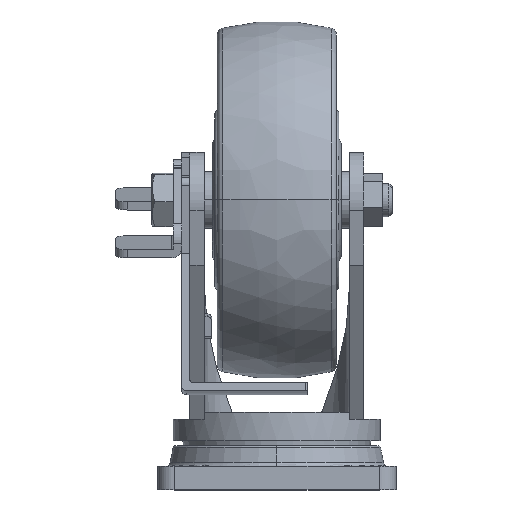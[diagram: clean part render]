
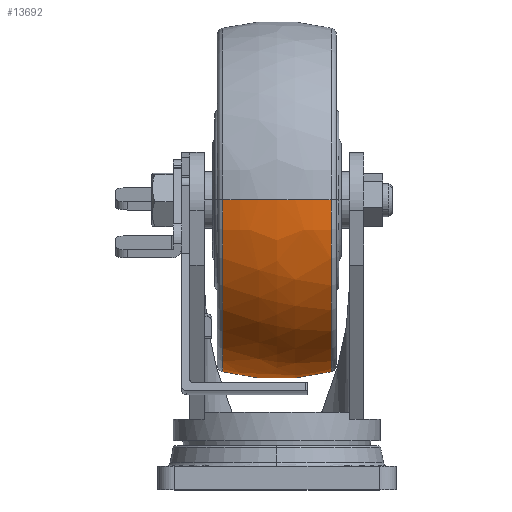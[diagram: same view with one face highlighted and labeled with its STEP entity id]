
A CAD part, top view. The second image highlights one B-rep face of the part: STEP entity #13692.
In plain terms, the highlighted free-form (B-spline) face has degree [3, 3] with [7, 4] control points.
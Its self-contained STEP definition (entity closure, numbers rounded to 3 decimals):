
#9576=CARTESIAN_POINT('',(14.999,0.,
0.));
#9577=DIRECTION('',(0.,1.,0.));
#9578=DIRECTION('',(-1.,0.,0.));
#9579=AXIS2_PLACEMENT_3D('',#9576,#9577,#9578);
#9581=CARTESIAN_POINT('',(0.,0.,22.759));
#9582=DIRECTION('',(0.,0.,1.));
#9583=DIRECTION('',(-1.,0.,0.));
#9584=AXIS2_PLACEMENT_3D('',#9581,#9582,#9583);
#9586=CARTESIAN_POINT('',(0.,0.,-22.759));
#9587=DIRECTION('',(0.,0.,-1.));
#9588=DIRECTION('',(1.,0.,0.));
#9589=AXIS2_PLACEMENT_3D('',#9586,#9587,#9588);
#9591=CARTESIAN_POINT('',(14.999,0.,
0.));
#9592=DIRECTION('',(0.,1.,0.));
#9593=DIRECTION('',(-0.967,0.,-0.253));
#9594=AXIS2_PLACEMENT_3D('',#9591,#9592,#9593);
#9601=CARTESIAN_POINT('',(-14.999,0.,
0.));
#9602=DIRECTION('',(0.,-1.,0.));
#9603=DIRECTION('',(0.967,0.,-0.253));
#9604=AXIS2_PLACEMENT_3D('',#9601,#9602,#9603);
#9606=CARTESIAN_POINT('',(-14.999,0.,
0.));
#9607=DIRECTION('',(0.,-1.,0.));
#9608=DIRECTION('',(1.,0.,0.));
#9609=AXIS2_PLACEMENT_3D('',#9606,#9607,#9608);
#10938=CARTESIAN_POINT('',(72.076,0.,
-22.759));
#10939=VERTEX_POINT('',#10938);
#10940=CARTESIAN_POINT('',(-72.076,0.001,
-22.759));
#10941=VERTEX_POINT('',#10940);
#10942=CARTESIAN_POINT('',(-75.001,-0.001,
0.));
#10943=CARTESIAN_POINT('',(-72.076,-0.001,
22.759));
#10944=VERTEX_POINT('',#10942);
#10945=VERTEX_POINT('',#10943);
#10946=CARTESIAN_POINT('',(72.076,-0.001,
22.759));
#10947=VERTEX_POINT('',#10946);
#10948=CARTESIAN_POINT('',(75.001,0.001,
0.));
#10949=VERTEX_POINT('',#10948);
#13650=CARTESIAN_POINT('',(-71.697,4.51,
-23.648));
#13651=CARTESIAN_POINT('',(-75.931,4.776,
-8.072));
#13652=CARTESIAN_POINT('',(-75.931,4.776,
8.072));
#13653=CARTESIAN_POINT('',(-71.697,4.51,
23.648));
#13654=CARTESIAN_POINT('',(-74.473,-39.612,
-23.648));
#13655=CARTESIAN_POINT('',(-78.87,-41.951,
-8.072));
#13656=CARTESIAN_POINT('',(-78.87,-41.951,
8.072));
#13657=CARTESIAN_POINT('',(-74.473,-39.612,
23.648));
#13658=CARTESIAN_POINT('',(-44.209,-71.839,
-23.648));
#13659=CARTESIAN_POINT('',(-46.82,-76.081,
-8.072));
#13660=CARTESIAN_POINT('',(-46.82,-76.081,
8.072));
#13661=CARTESIAN_POINT('',(-44.209,-71.839,
23.648));
#13662=CARTESIAN_POINT('',(0.,-71.839,
-23.648));
#13663=CARTESIAN_POINT('',(0.,-76.081,
-8.072));
#13664=CARTESIAN_POINT('',(0.,-76.081,
8.072));
#13665=CARTESIAN_POINT('',(0.,-71.839,
23.648));
#13666=CARTESIAN_POINT('',(44.209,-71.839,
-23.648));
#13667=CARTESIAN_POINT('',(46.82,-76.081,
-8.072));
#13668=CARTESIAN_POINT('',(46.82,-76.081,
8.072));
#13669=CARTESIAN_POINT('',(44.209,-71.839,
23.648));
#13670=CARTESIAN_POINT('',(74.473,-39.612,
-23.648));
#13671=CARTESIAN_POINT('',(78.87,-41.951,
-8.072));
#13672=CARTESIAN_POINT('',(78.87,-41.951,
8.072));
#13673=CARTESIAN_POINT('',(74.473,-39.612,
23.648));
#13674=CARTESIAN_POINT('',(71.697,4.51,
-23.648));
#13675=CARTESIAN_POINT('',(75.931,4.776,
-8.072));
#13676=CARTESIAN_POINT('',(75.931,4.776,8.072));
#13677=CARTESIAN_POINT('',(71.697,4.51,23.648));
#13678=(BOUNDED_SURFACE()B_SPLINE_SURFACE(3,3,((#13650,#13651,#13652,#13653),(
#13654,#13655,#13656,#13657),(#13658,#13659,#13660,#13661),(#13662,#13663,
#13664,#13665),(#13666,#13667,#13668,#13669),(#13670,#13671,#13672,#13673),(
#13674,#13675,#13676,#13677)),.UNSPECIFIED.,.F.,.F.,.F.)B_SPLINE_SURFACE_WITH_KNOTS((4,3,4),(4,4),(0.,1.,2.),(0.,1.),.UNSPECIFIED.)GEOMETRIC_REPRESENTATION_ITEM()RATIONAL_B_SPLINE_SURFACE(((1.208,1.18,
1.18,1.208),(0.954,0.932,
0.932,0.954),(0.954,0.932,
0.932,0.954),(1.208,1.18,
1.18,1.208),(0.954,0.932,
0.932,0.954),(0.954,0.932,
0.932,0.954),(1.208,1.18,
1.18,1.208)))REPRESENTATION_ITEM('')SURFACE());
#13680=ORIENTED_EDGE('',*,*,#13679,.T.);
#13682=ORIENTED_EDGE('',*,*,#13681,.T.);
#13684=ORIENTED_EDGE('',*,*,#13683,.F.);
#13686=ORIENTED_EDGE('',*,*,#13685,.F.);
#13687=ORIENTED_EDGE('',*,*,#13643,.T.);
#13689=ORIENTED_EDGE('',*,*,#13688,.T.);
#13690=EDGE_LOOP('',(#13680,#13682,#13684,#13686,#13687,#13689));
#13691=FACE_OUTER_BOUND('',#13690,.F.);
#9580=CIRCLE('',#9579,90.);
#9585=CIRCLE('',#9584,72.076);
#9590=CIRCLE('',#9589,72.076);
#9595=CIRCLE('',#9594,90.);
#9605=CIRCLE('',#9604,90.);
#9610=CIRCLE('',#9609,90.);
#13643=EDGE_CURVE('',#10939,#10941,#9590,.T.);
#13679=EDGE_CURVE('',#10944,#10945,#9580,.T.);
#13681=EDGE_CURVE('',#10945,#10947,#9585,.T.);
#13683=EDGE_CURVE('',#10949,#10947,#9610,.T.);
#13685=EDGE_CURVE('',#10939,#10949,#9605,.T.);
#13688=EDGE_CURVE('',#10941,#10944,#9595,.T.);
#13692=ADVANCED_FACE('',(#13691),#13678,.T.);
